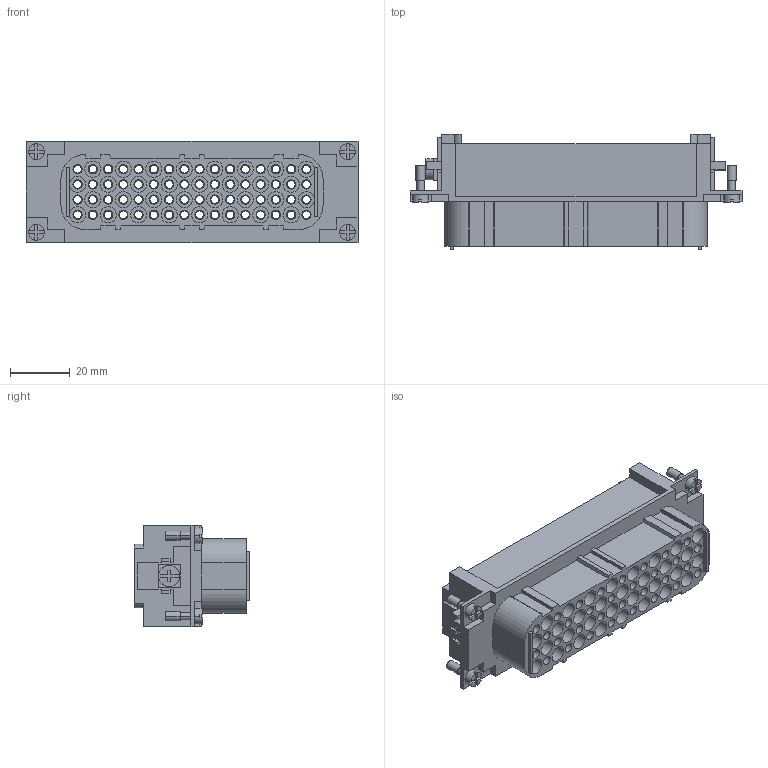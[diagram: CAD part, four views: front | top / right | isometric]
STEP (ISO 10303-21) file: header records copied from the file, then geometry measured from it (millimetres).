
FILE_DESCRIPTION (( 'STEP AP203' ), '1' );
FILE_NAME ('352229.STEP', '2025-06-26T05:27:53', ( '' ), ( '' ), 'SwSTEP 2.0', 'SolidWorks 2018', '' );
FILE_SCHEMA (( 'CONFIG_CONTROL_DESIGN' ));
Length unit declared in the file: millimetre
Products named in the file (1): 352229
Bounding box: 111 x 38.7 x 34 mm (x, y, z)
Volume: 59249.2 mm3; surface area: 41916.8 mm2
Topology: 1 solids, 1 shells, 1064 faces, 2484 edges, 1656 vertices
Faces by surface type: cylinder 612, plane 452
Entity records: 31297 total; most frequent: DIRECTION 5890, CARTESIAN_POINT 5205, ORIENTED_EDGE 4968, EDGE_CURVE 2484, AXIS2_PLACEMENT_3D 2341, VERTEX_POINT 1656, EDGE_LOOP 1426, CIRCLE 1276
